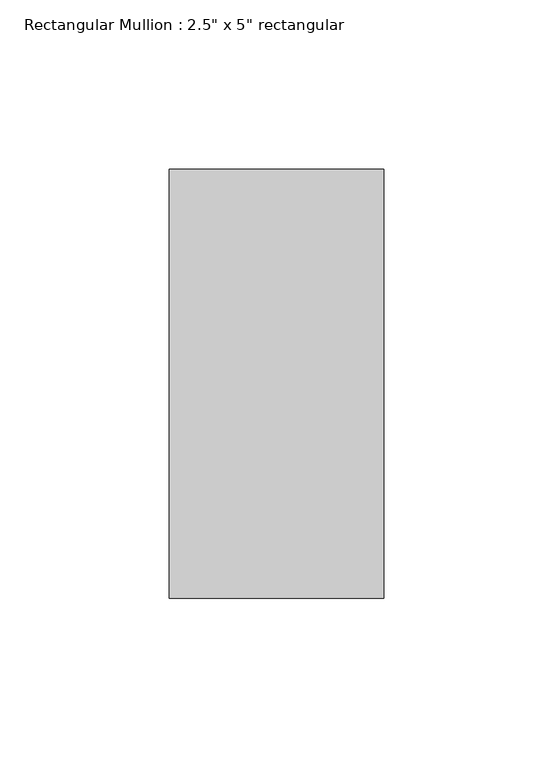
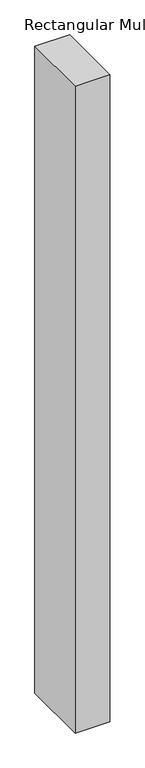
"""IFC4 building model written with IfcOpenShell, lengths in millimetres: member geometry."""

from ifc_helpers import new_model, si_unit, frame, origin, place, context, project, spatial, polyline, outline, extrude, source, transform, mapped, element, save


def member_8f2bf440(model_context):
    return source(origin(), model_context, "Body", "SweptSolid", [
        extrude(outline(polyline([(31.75, 63.5), (31.75, -63.5), (-31.75, -63.5), (-31.75, 63.5), (31.75, 63.5)])), frame((0.0, 0.0, -1245.9342807), z_axis=(0.0, 0.0, 1.0), x_axis=(1.0, 0.0, 0.0)), (0.0, 0.0, 1.0), 1245.9342807),
    ])


if __name__ == "__main__":
    model = new_model("IFC4")
    model_context = context("Model", 3, world=origin())
    ifc_project = project(units=[si_unit("LENGTHUNIT", "METRE", prefix="MILLI")], contexts=[model_context])
    site = spatial("IfcSite", under=ifc_project)
    building = spatial("IfcBuilding", under=site)
    placement = place(None, origin())
    member_shape = member_8f2bf440(model_context)
    element("IfcMember", 1, ObjectType="Rectangular Mullion : 2.5\" x 5\" rectangular", at=placement, inside=building, context=model_context, shape_type="MappedRepresentation", body=[
        mapped(member_shape, transform((0.0, 0.0, 0.0), x_axis=(1.0, 0.0, 0.0), y_axis=(0.0, 1.0, 0.0), z_axis=(0.0, 0.0, 1.0))),
    ])
    save(model, "model.ifc")
